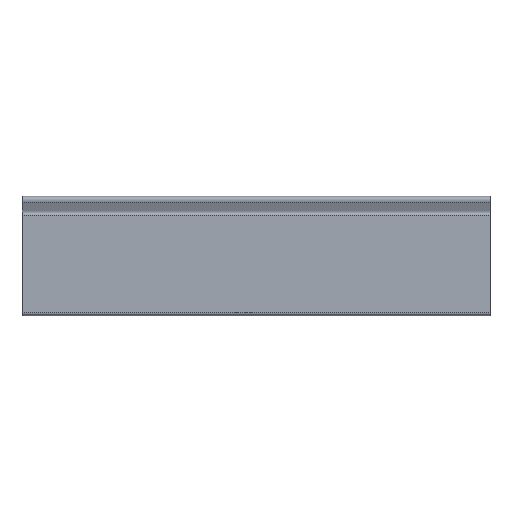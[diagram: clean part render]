
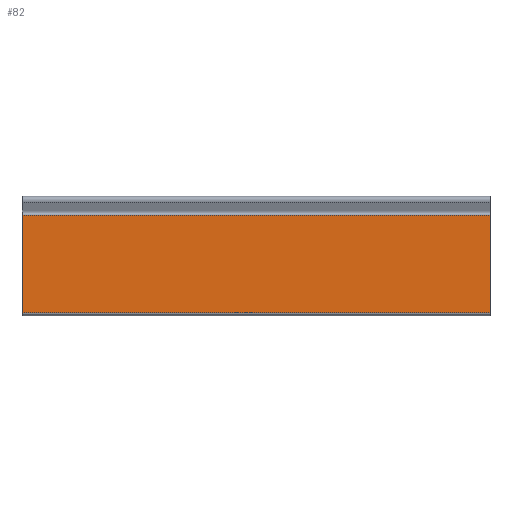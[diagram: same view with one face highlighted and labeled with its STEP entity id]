
A CAD part, left-side view. The second image highlights one B-rep face of the part: STEP entity #82.
In plain terms, the highlighted planar face has unit normal (-1, 0, 0).
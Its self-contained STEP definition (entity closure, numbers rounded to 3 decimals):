
#1 = CARTESIAN_POINT ( 'NONE',  ( 0., -15., 1.265 ) ) ;
#7 = DIRECTION ( 'NONE',  ( 0., 0., 1. ) ) ;
#13 = EDGE_CURVE ( 'NONE', #21, #259, #135, .T. ) ;
#21 = VERTEX_POINT ( 'NONE', #108 ) ;
#31 = EDGE_CURVE ( 'NONE', #147, #50, #300, .T. ) ;
#35 = DIRECTION ( 'NONE',  ( 0., -1., 0. ) ) ;
#36 = DIRECTION ( 'NONE',  ( 0., -1., 0. ) ) ;
#44 = VECTOR ( 'NONE', #36, 1000. ) ;
#50 = VERTEX_POINT ( 'NONE', #86 ) ;
#62 = PLANE ( 'NONE',  #288 ) ;
#82 = ADVANCED_FACE ( 'NONE', ( #162 ), #62, .F. ) ;
#86 = CARTESIAN_POINT ( 'NONE',  ( 0., -15., 7.488 ) ) ;
#90 = EDGE_CURVE ( 'NONE', #21, #147, #238, .T. ) ;
#108 = CARTESIAN_POINT ( 'NONE',  ( 0., 15., 1.265 ) ) ;
#134 = EDGE_CURVE ( 'NONE', #259, #50, #240, .T. ) ;
#135 = LINE ( 'NONE', #235, #312 ) ;
#145 = VECTOR ( 'NONE', #207, 1000. ) ;
#147 = VERTEX_POINT ( 'NONE', #265 ) ;
#162 = FACE_OUTER_BOUND ( 'NONE', #229, .T. ) ;
#177 = ORIENTED_EDGE ( 'NONE', *, *, #134, .F. ) ;
#190 = DIRECTION ( 'NONE',  ( 1., 0., 0. ) ) ;
#192 = CARTESIAN_POINT ( 'NONE',  ( 0., 15., 1.265 ) ) ;
#201 = ORIENTED_EDGE ( 'NONE', *, *, #90, .T. ) ;
#207 = DIRECTION ( 'NONE',  ( 0., 0., 1. ) ) ;
#212 = DIRECTION ( 'NONE',  ( 0., 0., -1. ) ) ;
#221 = ORIENTED_EDGE ( 'NONE', *, *, #31, .T. ) ;
#229 = EDGE_LOOP ( 'NONE', ( #221, #177, #254, #201 ) ) ;
#235 = CARTESIAN_POINT ( 'NONE',  ( 0., 15., 1.265 ) ) ;
#238 = LINE ( 'NONE', #192, #44 ) ;
#240 = LINE ( 'NONE', #266, #301 ) ;
#246 = CARTESIAN_POINT ( 'NONE',  ( 0., 15., 7.488 ) ) ;
#254 = ORIENTED_EDGE ( 'NONE', *, *, #13, .F. ) ;
#259 = VERTEX_POINT ( 'NONE', #246 ) ;
#264 = CARTESIAN_POINT ( 'NONE',  ( 0., 15., 1.265 ) ) ;
#265 = CARTESIAN_POINT ( 'NONE',  ( 0., -15., 1.265 ) ) ;
#266 = CARTESIAN_POINT ( 'NONE',  ( 0., 15., 7.488 ) ) ;
#288 = AXIS2_PLACEMENT_3D ( 'NONE', #264, #190, #212 ) ;
#300 = LINE ( 'NONE', #1, #145 ) ;
#301 = VECTOR ( 'NONE', #35, 1000. ) ;
#312 = VECTOR ( 'NONE', #7, 1000. ) ;
